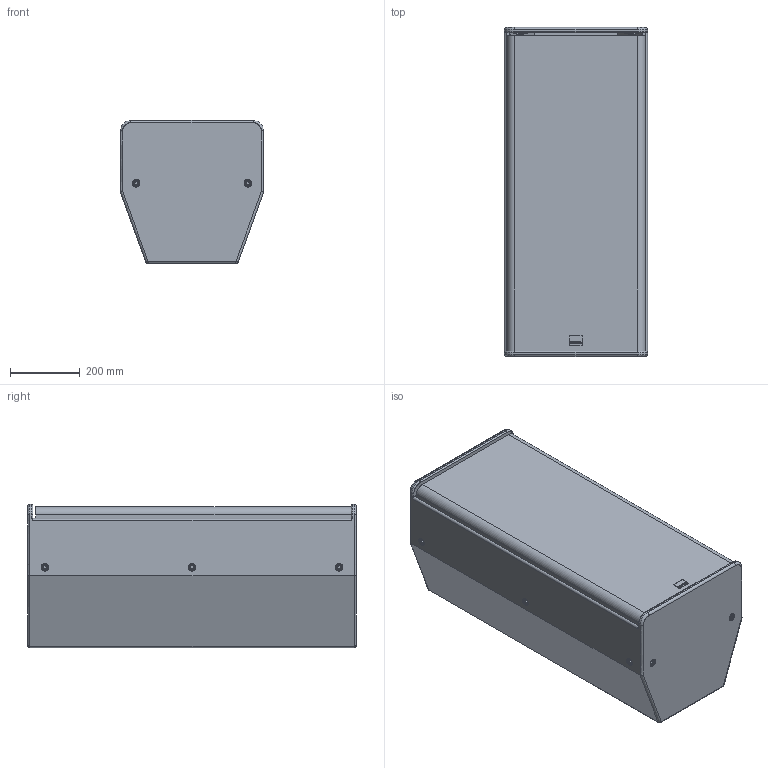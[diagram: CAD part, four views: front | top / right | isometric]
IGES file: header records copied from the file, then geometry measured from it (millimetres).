
Start section: SolidWorks IGES file using analytic representation for surfaces
Global section: file name: C:\Dokumente und Einstellungen\PC_Fabian\Desktop\F-Serie\Seeburg_F22.IGS; native system: SolidWorks 2009; preprocessor: SolidWorks 2009; author: PC_Fabian; date: 121015.144856; units: millimetre
Bounding box: 410 x 942 x 410 mm (x, y, z)
Surface area: 3375559.8 mm2 (no closed solid volume)
Topology: 0 solids, 0 shells, 718 faces, 10803 edges, 10801 vertices
Faces by surface type: revolution 462, bspline 256
